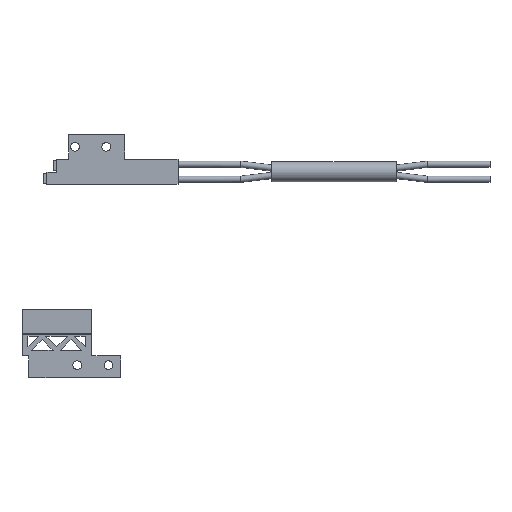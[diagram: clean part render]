
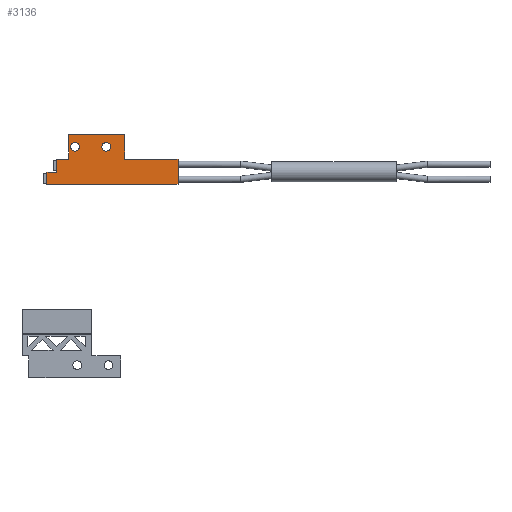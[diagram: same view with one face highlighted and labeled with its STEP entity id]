
A CAD part, front view. The second image highlights one B-rep face of the part: STEP entity #3136.
In plain terms, the highlighted planar face has unit normal (0, -1, 0).
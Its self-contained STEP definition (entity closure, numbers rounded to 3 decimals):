
#1228 = AXIS2_PLACEMENT_3D ( 'NONE', #1285, #1284, #1283 ) ;
#1229 = CIRCLE ( 'NONE', #1228, 0.7 ) ;
#1281 = CARTESIAN_POINT ( 'NONE',  ( -11.5, 0., 5.3 ) ) ;
#1282 = CARTESIAN_POINT ( 'NONE',  ( -11.5, 0., 6.7 ) ) ;
#1283 = DIRECTION ( 'NONE',  ( 0., 0., -1. ) ) ;
#1284 = DIRECTION ( 'NONE',  ( 0., -1., 0. ) ) ;
#1285 = CARTESIAN_POINT ( 'NONE',  ( -11.5, 0., 6. ) ) ;
#1301 = CARTESIAN_POINT ( 'NONE',  ( -16.5, 0., 6.7 ) ) ;
#1302 = CARTESIAN_POINT ( 'NONE',  ( -16.5, 0., 5.3 ) ) ;
#1308 = CARTESIAN_POINT ( 'NONE',  ( -21., 0., 1.9 ) ) ;
#1390 = CIRCLE ( 'NONE', #1436, 0.7 ) ;
#1396 = CARTESIAN_POINT ( 'NONE',  ( -16.5, 0., 6. ) ) ;
#1434 = DIRECTION ( 'NONE',  ( 0., 0., -1. ) ) ;
#1435 = DIRECTION ( 'NONE',  ( 0., -1., 0. ) ) ;
#1436 = AXIS2_PLACEMENT_3D ( 'NONE', #1396, #1435, #1434 ) ;
#1569 = DIRECTION ( 'NONE',  ( -1., 0., 0. ) ) ;
#1570 = VECTOR ( 'NONE', #1569, 1000. ) ;
#1571 = CARTESIAN_POINT ( 'NONE',  ( 0., 0., 0. ) ) ;
#1572 = LINE ( 'NONE', #1571, #1570 ) ;
#1577 = CARTESIAN_POINT ( 'NONE',  ( -21., 0., 0. ) ) ;
#1675 = DIRECTION ( 'NONE',  ( 1., 0., 0. ) ) ;
#1676 = VECTOR ( 'NONE', #1675, 1000. ) ;
#1677 = CARTESIAN_POINT ( 'NONE',  ( 0., 0., 4. ) ) ;
#1678 = LINE ( 'NONE', #1677, #1676 ) ;
#1679 = CARTESIAN_POINT ( 'NONE',  ( -19.5, 0., 4. ) ) ;
#1689 = CARTESIAN_POINT ( 'NONE',  ( -16.5, 0., 6. ) ) ;
#1690 = AXIS2_PLACEMENT_3D ( 'NONE', #1689, #1752, #1751 ) ;
#1691 = CIRCLE ( 'NONE', #1690, 0.7 ) ;
#1692 = DIRECTION ( 'NONE',  ( 0., 0., -1. ) ) ;
#1693 = DIRECTION ( 'NONE',  ( 0., -1., 0. ) ) ;
#1694 = CARTESIAN_POINT ( 'NONE',  ( 0., 0., 0. ) ) ;
#1695 = AXIS2_PLACEMENT_3D ( 'NONE', #1694, #1693, #1692 ) ;
#1696 = PLANE ( 'NONE',  #1695 ) ;
#1697 = FACE_OUTER_BOUND ( 'NONE', #3145, .T. ) ;
#1698 = FACE_BOUND ( 'NONE', #3141, .T. ) ;
#1699 = FACE_BOUND ( 'NONE', #3137, .T. ) ;
#1722 = DIRECTION ( 'NONE',  ( 1., 0., 0. ) ) ;
#1723 = VECTOR ( 'NONE', #1722, 1000. ) ;
#1724 = CARTESIAN_POINT ( 'NONE',  ( 0., 0., 4. ) ) ;
#1725 = LINE ( 'NONE', #1724, #1723 ) ;
#1726 = CARTESIAN_POINT ( 'NONE',  ( -8.5, 0., 4. ) ) ;
#1736 = CARTESIAN_POINT ( 'NONE',  ( -17.5, 0., 4. ) ) ;
#1741 = CARTESIAN_POINT ( 'NONE',  ( -19.5, 0., 1.9 ) ) ;
#1742 = DIRECTION ( 'NONE',  ( 0., 0., 1. ) ) ;
#1743 = VECTOR ( 'NONE', #1742, 1000. ) ;
#1744 = CARTESIAN_POINT ( 'NONE',  ( -19.5, 0., 1.9 ) ) ;
#1745 = LINE ( 'NONE', #1744, #1743 ) ;
#1746 = DIRECTION ( 'NONE',  ( 0., 0., -1. ) ) ;
#1747 = DIRECTION ( 'NONE',  ( 0., -1., 0. ) ) ;
#1748 = CARTESIAN_POINT ( 'NONE',  ( -11.5, 0., 6. ) ) ;
#1749 = AXIS2_PLACEMENT_3D ( 'NONE', #1748, #1747, #1746 ) ;
#1750 = CIRCLE ( 'NONE', #1749, 0.7 ) ;
#1751 = DIRECTION ( 'NONE',  ( 0., 0., -1. ) ) ;
#1752 = DIRECTION ( 'NONE',  ( 0., -1., 0. ) ) ;
#1759 = CARTESIAN_POINT ( 'NONE',  ( -8.5, 0., 8. ) ) ;
#1760 = DIRECTION ( 'NONE',  ( 0., 0., -1. ) ) ;
#1761 = VECTOR ( 'NONE', #1760, 1000. ) ;
#1762 = CARTESIAN_POINT ( 'NONE',  ( -8.5, 0., 4. ) ) ;
#1763 = LINE ( 'NONE', #1762, #1761 ) ;
#1798 = DIRECTION ( 'NONE',  ( -1., 0., 0. ) ) ;
#1799 = VECTOR ( 'NONE', #1798, 1000. ) ;
#1800 = CARTESIAN_POINT ( 'NONE',  ( -21.5, 0., 1.9 ) ) ;
#1801 = LINE ( 'NONE', #1800, #1799 ) ;
#1803 = DIRECTION ( 'NONE',  ( 0., 0., 1. ) ) ;
#1804 = VECTOR ( 'NONE', #1803, 1000. ) ;
#1805 = CARTESIAN_POINT ( 'NONE',  ( -21., 0., 0. ) ) ;
#1806 = LINE ( 'NONE', #1805, #1804 ) ;
#1812 = CARTESIAN_POINT ( 'NONE',  ( -17.5, 0., 8. ) ) ;
#1813 = DIRECTION ( 'NONE',  ( 1., 0., 0. ) ) ;
#1814 = VECTOR ( 'NONE', #1813, 1000. ) ;
#1815 = CARTESIAN_POINT ( 'NONE',  ( -17.5, 0., 8. ) ) ;
#1816 = LINE ( 'NONE', #1815, #1814 ) ;
#1831 = CARTESIAN_POINT ( 'NONE',  ( 0., 0., 0. ) ) ;
#1832 = CARTESIAN_POINT ( 'NONE',  ( 0., 0., 4. ) ) ;
#1833 = DIRECTION ( 'NONE',  ( 0., 0., -1. ) ) ;
#1834 = VECTOR ( 'NONE', #1833, 1000. ) ;
#1835 = CARTESIAN_POINT ( 'NONE',  ( 0., 0., 0. ) ) ;
#1836 = LINE ( 'NONE', #1835, #1834 ) ;
#1874 = DIRECTION ( 'NONE',  ( 0., 0., 1. ) ) ;
#1875 = VECTOR ( 'NONE', #1874, 1000. ) ;
#1876 = CARTESIAN_POINT ( 'NONE',  ( -17.5, 0., 4. ) ) ;
#1877 = LINE ( 'NONE', #1876, #1875 ) ;
#2899 = EDGE_CURVE ( 'NONE', #2900, #2903, #1229, .T. ) ;
#2900 = VERTEX_POINT ( 'NONE', #1282 ) ;
#2903 = VERTEX_POINT ( 'NONE', #1281 ) ;
#2912 = VERTEX_POINT ( 'NONE', #1308 ) ;
#2916 = VERTEX_POINT ( 'NONE', #1302 ) ;
#2917 = VERTEX_POINT ( 'NONE', #1301 ) ;
#2977 = EDGE_CURVE ( 'NONE', #2917, #2916, #1390, .T. ) ;
#3047 = VERTEX_POINT ( 'NONE', #1577 ) ;
#3052 = EDGE_CURVE ( 'NONE', #3203, #3047, #1572, .T. ) ;
#3109 = VERTEX_POINT ( 'NONE', #1679 ) ;
#3111 = EDGE_CURVE ( 'NONE', #3109, #3151, #1678, .T. ) ;
#3136 = ADVANCED_FACE ( 'NONE', ( #1699, #1698, #1697 ), #1696, .T. ) ;
#3137 = EDGE_LOOP ( 'NONE', ( #3138, #3139 ) ) ;
#3138 = ORIENTED_EDGE ( 'NONE', *, *, #2977, .F. ) ;
#3139 = ORIENTED_EDGE ( 'NONE', *, *, #3140, .F. ) ;
#3140 = EDGE_CURVE ( 'NONE', #2916, #2917, #1691, .T. ) ;
#3141 = EDGE_LOOP ( 'NONE', ( #3142, #3143 ) ) ;
#3142 = ORIENTED_EDGE ( 'NONE', *, *, #2899, .F. ) ;
#3143 = ORIENTED_EDGE ( 'NONE', *, *, #3144, .F. ) ;
#3144 = EDGE_CURVE ( 'NONE', #2903, #2900, #1750, .T. ) ;
#3145 = EDGE_LOOP ( 'NONE', ( #3146, #3149, #3186, #3185, #3179, #3184, #3171, #3215, #3218, #3220 ) ) ;
#3146 = ORIENTED_EDGE ( 'NONE', *, *, #3147, .F. ) ;
#3147 = EDGE_CURVE ( 'NONE', #3148, #3109, #1745, .T. ) ;
#3148 = VERTEX_POINT ( 'NONE', #1741 ) ;
#3149 = ORIENTED_EDGE ( 'NONE', *, *, #3189, .T. ) ;
#3151 = VERTEX_POINT ( 'NONE', #1736 ) ;
#3157 = VERTEX_POINT ( 'NONE', #1726 ) ;
#3159 = EDGE_CURVE ( 'NONE', #3157, #3202, #1725, .T. ) ;
#3171 = ORIENTED_EDGE ( 'NONE', *, *, #3172, .F. ) ;
#3172 = EDGE_CURVE ( 'NONE', #3173, #3157, #1763, .T. ) ;
#3173 = VERTEX_POINT ( 'NONE', #1759 ) ;
#3179 = ORIENTED_EDGE ( 'NONE', *, *, #3201, .F. ) ;
#3184 = ORIENTED_EDGE ( 'NONE', *, *, #3159, .F. ) ;
#3185 = ORIENTED_EDGE ( 'NONE', *, *, #3052, .F. ) ;
#3186 = ORIENTED_EDGE ( 'NONE', *, *, #3187, .F. ) ;
#3187 = EDGE_CURVE ( 'NONE', #3047, #2912, #1806, .T. ) ;
#3189 = EDGE_CURVE ( 'NONE', #3148, #2912, #1801, .T. ) ;
#3201 = EDGE_CURVE ( 'NONE', #3202, #3203, #1836, .T. ) ;
#3202 = VERTEX_POINT ( 'NONE', #1832 ) ;
#3203 = VERTEX_POINT ( 'NONE', #1831 ) ;
#3215 = ORIENTED_EDGE ( 'NONE', *, *, #3216, .F. ) ;
#3216 = EDGE_CURVE ( 'NONE', #3217, #3173, #1816, .T. ) ;
#3217 = VERTEX_POINT ( 'NONE', #1812 ) ;
#3218 = ORIENTED_EDGE ( 'NONE', *, *, #3219, .F. ) ;
#3219 = EDGE_CURVE ( 'NONE', #3151, #3217, #1877, .T. ) ;
#3220 = ORIENTED_EDGE ( 'NONE', *, *, #3111, .F. ) ;
